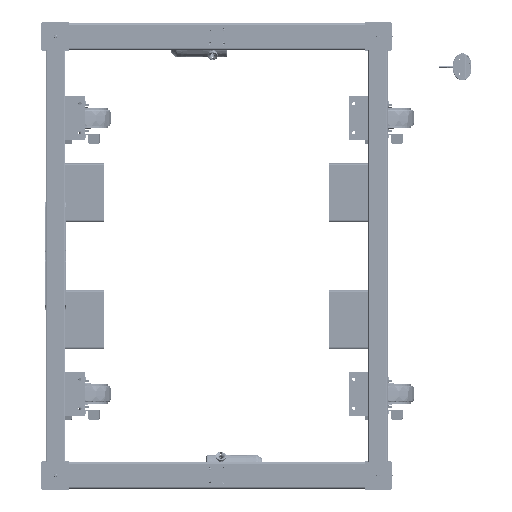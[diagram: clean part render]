
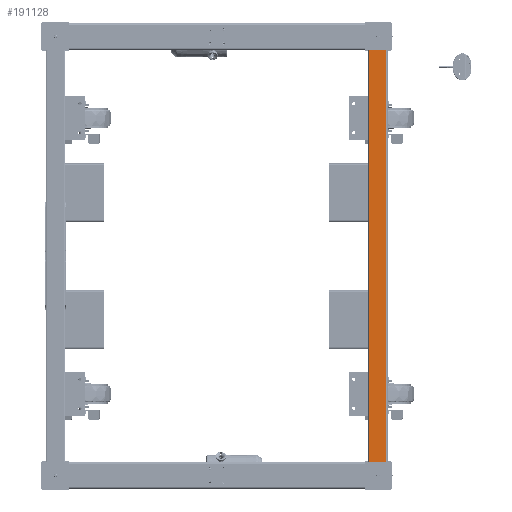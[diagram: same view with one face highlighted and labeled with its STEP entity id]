
A CAD part, left-side view. The second image highlights one B-rep face of the part: STEP entity #191128.
In plain terms, the highlighted planar face has unit normal (-1, 0, 0).
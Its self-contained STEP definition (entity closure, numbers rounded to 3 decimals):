
#4317 = DIRECTION ( 'NONE',  ( 0., -1., 0. ) ) ;
#19528 = EDGE_CURVE ( 'NONE', #248807, #252057, #285250, .T. ) ;
#31947 = CARTESIAN_POINT ( 'NONE',  ( 139.497, 440.725, 1894.522 ) ) ;
#34153 = EDGE_CURVE ( 'NONE', #290320, #102321, #194033, .T. ) ;
#46321 = ORIENTED_EDGE ( 'NONE', *, *, #34153, .T. ) ;
#59786 = CARTESIAN_POINT ( 'NONE',  ( 139.497, 485.175, 1894.522 ) ) ;
#68465 = VECTOR ( 'NONE', #212958, 1000. ) ;
#68720 = ORIENTED_EDGE ( 'NONE', *, *, #117536, .F. ) ;
#71898 = CARTESIAN_POINT ( 'NONE',  ( 139.497, 440.725, 815.322 ) ) ;
#87449 = VECTOR ( 'NONE', #265114, 1000. ) ;
#93907 = CARTESIAN_POINT ( 'NONE',  ( 139.497, 485.175, 815.322 ) ) ;
#95319 = FACE_OUTER_BOUND ( 'NONE', #248836, .T. ) ;
#102321 = VERTEX_POINT ( 'NONE', #59786 ) ;
#112920 = DIRECTION ( 'NONE',  ( 0., 0., 1. ) ) ;
#117536 = EDGE_CURVE ( 'NONE', #252057, #102321, #140318, .T. ) ;
#124712 = DIRECTION ( 'NONE',  ( 0., 1., 0. ) ) ;
#125157 = CARTESIAN_POINT ( 'NONE',  ( 139.497, 440.725, 1894.522 ) ) ;
#140318 = LINE ( 'NONE', #282307, #68465 ) ;
#145713 = VECTOR ( 'NONE', #124712, 1000. ) ;
#166289 = PLANE ( 'NONE',  #296359 ) ;
#173971 = EDGE_CURVE ( 'NONE', #248807, #290320, #210182, .T. ) ;
#183829 = CARTESIAN_POINT ( 'NONE',  ( 139.497, 440.725, 815.322 ) ) ;
#191128 = ADVANCED_FACE ( 'NONE', ( #95319 ), #166289, .F. ) ;
#194033 = LINE ( 'NONE', #31947, #87449 ) ;
#195277 = ORIENTED_EDGE ( 'NONE', *, *, #19528, .F. ) ;
#195627 = DIRECTION ( 'NONE',  ( 1., 0., 0. ) ) ;
#210182 = LINE ( 'NONE', #183829, #269161 ) ;
#212958 = DIRECTION ( 'NONE',  ( 0., 0., 1. ) ) ;
#214259 = CARTESIAN_POINT ( 'NONE',  ( 139.497, 440.725, 815.322 ) ) ;
#214382 = CARTESIAN_POINT ( 'NONE',  ( 139.497, 440.725, 815.322 ) ) ;
#231008 = ORIENTED_EDGE ( 'NONE', *, *, #173971, .T. ) ;
#248807 = VERTEX_POINT ( 'NONE', #71898 ) ;
#248836 = EDGE_LOOP ( 'NONE', ( #46321, #68720, #195277, #231008 ) ) ;
#252057 = VERTEX_POINT ( 'NONE', #93907 ) ;
#265114 = DIRECTION ( 'NONE',  ( 0., 1., 0. ) ) ;
#269161 = VECTOR ( 'NONE', #112920, 1000. ) ;
#282307 = CARTESIAN_POINT ( 'NONE',  ( 139.497, 485.175, 815.322 ) ) ;
#285250 = LINE ( 'NONE', #214382, #145713 ) ;
#290320 = VERTEX_POINT ( 'NONE', #125157 ) ;
#296359 = AXIS2_PLACEMENT_3D ( 'NONE', #214259, #195627, #4317 ) ;
